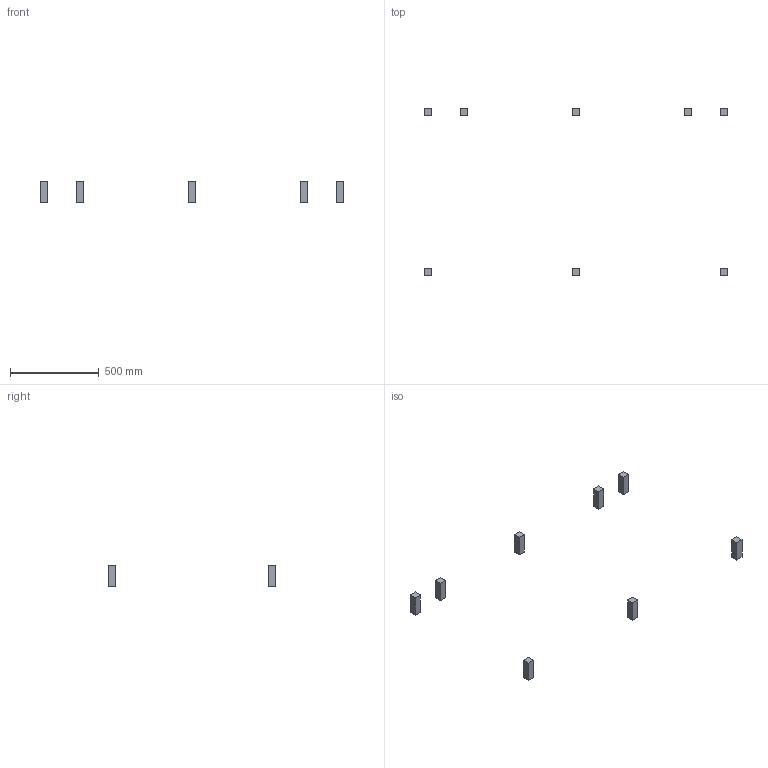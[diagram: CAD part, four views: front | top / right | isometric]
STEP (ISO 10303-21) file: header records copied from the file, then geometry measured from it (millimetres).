
FILE_DESCRIPTION(/* description */ (''),/* implementation_level */ '2;1');
FILE_NAME(/* name */ 'FR52CC~1',/* time_stamp */ '2014-02-14T19:32:10+01:00',/* author */ (''),/* organization */ (''),/* preprocessor_version */ 'ST-DEVELOPER v14',/* originating_system */ '',/* authorisation */ '');
FILE_SCHEMA (('AUTOMOTIVE_DESIGN'));
Length unit declared in the file: millimetre
Products named in the file (1): Document
Bounding box: 1700 x 940 x 120 mm (x, y, z)
Volume: 1536000 mm3; surface area: 179200 mm2
Topology: 8 solids, 8 shells, 48 faces, 96 edges, 64 vertices
Faces by surface type: plane 48
Entity records: 2209 total; most frequent: CARTESIAN_POINT 690, B_SPLINE_CURVE_WITH_KNOTS 288, ORIENTED_EDGE 192, PCURVE 192, DEFINITIONAL_REPRESENTATION 192, SURFACE_CURVE 96, EDGE_CURVE 96, VERTEX_POINT 64
